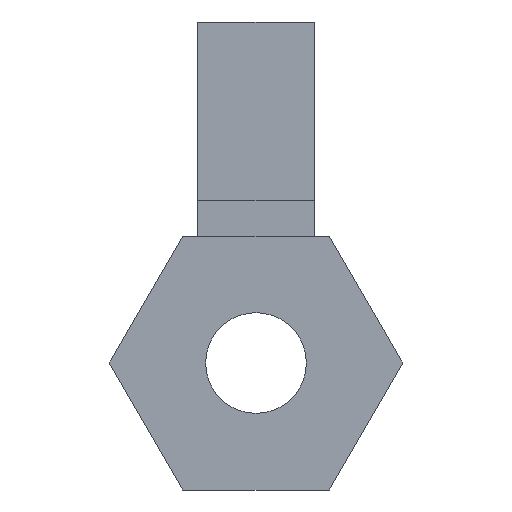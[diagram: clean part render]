
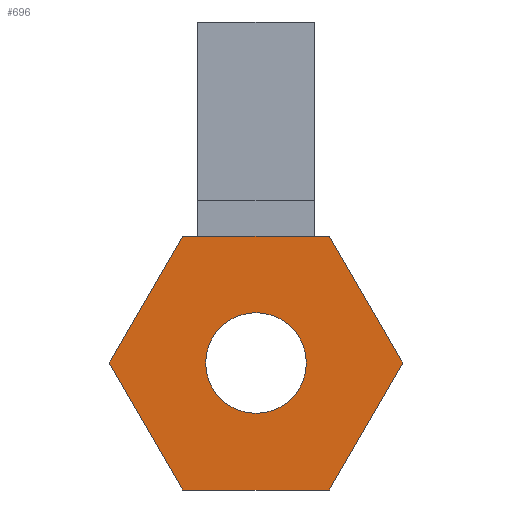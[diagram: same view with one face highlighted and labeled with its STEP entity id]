
A CAD part, left-side view. The second image highlights one B-rep face of the part: STEP entity #696.
In plain terms, the highlighted planar face has unit normal (-1, 0, 0).
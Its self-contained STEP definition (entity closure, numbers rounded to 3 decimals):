
#32 = PLANE('',#33);
#33 = AXIS2_PLACEMENT_3D('',#34,#35,#36);
#34 = CARTESIAN_POINT('',(0.,0.,0.391));
#35 = DIRECTION('',(0.,0.,1.));
#36 = DIRECTION('',(0.,-1.,0.));
#141 = VERTEX_POINT('',#142);
#142 = CARTESIAN_POINT('',(0.,0.226,0.391));
#156 = PLANE('',#157);
#157 = AXIS2_PLACEMENT_3D('',#158,#159,#160);
#158 = CARTESIAN_POINT('',(0.,0.339,0.196));
#159 = DIRECTION('',(0.,0.866,0.5));
#160 = DIRECTION('',(0.,-0.5,0.866));
#168 = EDGE_CURVE('',#169,#141,#171,.T.);
#169 = VERTEX_POINT('',#170);
#170 = CARTESIAN_POINT('',(0.,-0.226,0.391));
#171 = SURFACE_CURVE('',#172,(#176,#183),.PCURVE_S1.);
#172 = LINE('',#173,#174);
#173 = CARTESIAN_POINT('',(0.,-0.226,0.391));
#174 = VECTOR('',#175,1.);
#175 = DIRECTION('',(0.,1.,0.));
#176 = PCURVE('',#32,#177);
#177 = DEFINITIONAL_REPRESENTATION('',(#178),#182);
#178 = LINE('',#179,#180);
#179 = CARTESIAN_POINT('',(0.226,0.));
#180 = VECTOR('',#181,1.);
#181 = DIRECTION('',(-1.,0.));
#182 = ( GEOMETRIC_REPRESENTATION_CONTEXT(2) 
PARAMETRIC_REPRESENTATION_CONTEXT() REPRESENTATION_CONTEXT('2D SPACE',''
  ) );
#183 = PCURVE('',#184,#189);
#184 = PLANE('',#185);
#185 = AXIS2_PLACEMENT_3D('',#186,#187,#188);
#186 = CARTESIAN_POINT('',(0.,0.,0.));
#187 = DIRECTION('',(1.,0.,0.));
#188 = DIRECTION('',(0.,0.,-1.));
#189 = DEFINITIONAL_REPRESENTATION('',(#190),#194);
#190 = LINE('',#191,#192);
#191 = CARTESIAN_POINT('',(-0.391,-0.226));
#192 = VECTOR('',#193,1.);
#193 = DIRECTION('',(0.,1.));
#194 = ( GEOMETRIC_REPRESENTATION_CONTEXT(2) 
PARAMETRIC_REPRESENTATION_CONTEXT() REPRESENTATION_CONTEXT('2D SPACE',''
  ) );
#212 = PLANE('',#213);
#213 = AXIS2_PLACEMENT_3D('',#214,#215,#216);
#214 = CARTESIAN_POINT('',(0.,-0.339,0.196));
#215 = DIRECTION('',(0.,-0.866,0.5));
#216 = DIRECTION('',(0.,-0.5,-0.866));
#248 = EDGE_CURVE('',#249,#251,#253,.T.);
#249 = VERTEX_POINT('',#250);
#250 = CARTESIAN_POINT('',(0.,0.155,0.));
#251 = VERTEX_POINT('',#252);
#252 = CARTESIAN_POINT('',(0.,-0.155,0.));
#253 = SURFACE_CURVE('',#254,(#259,#271),.PCURVE_S1.);
#254 = CIRCLE('',#255,0.155);
#255 = AXIS2_PLACEMENT_3D('',#256,#257,#258);
#256 = CARTESIAN_POINT('',(0.,0.,0.));
#257 = DIRECTION('',(1.,0.,0.));
#258 = DIRECTION('',(0.,-1.,0.));
#259 = PCURVE('',#260,#265);
#260 = CYLINDRICAL_SURFACE('',#261,0.155);
#261 = AXIS2_PLACEMENT_3D('',#262,#263,#264);
#262 = CARTESIAN_POINT('',(1.7,0.,0.));
#263 = DIRECTION('',(-1.,0.,0.));
#264 = DIRECTION('',(0.,-1.,0.));
#265 = DEFINITIONAL_REPRESENTATION('',(#266),#270);
#266 = LINE('',#267,#268);
#267 = CARTESIAN_POINT('',(6.283,1.7));
#268 = VECTOR('',#269,1.);
#269 = DIRECTION('',(-1.,0.));
#270 = ( GEOMETRIC_REPRESENTATION_CONTEXT(2) 
PARAMETRIC_REPRESENTATION_CONTEXT() REPRESENTATION_CONTEXT('2D SPACE',''
  ) );
#271 = PCURVE('',#184,#272);
#272 = DEFINITIONAL_REPRESENTATION('',(#273),#277);
#273 = CIRCLE('',#274,0.155);
#274 = AXIS2_PLACEMENT_2D('',#275,#276);
#275 = CARTESIAN_POINT('',(0.,0.));
#276 = DIRECTION('',(0.,-1.));
#277 = ( GEOMETRIC_REPRESENTATION_CONTEXT(2) 
PARAMETRIC_REPRESENTATION_CONTEXT() REPRESENTATION_CONTEXT('2D SPACE',''
  ) );
#329 = EDGE_CURVE('',#251,#249,#330,.T.);
#330 = SURFACE_CURVE('',#331,(#336,#343),.PCURVE_S1.);
#331 = CIRCLE('',#332,0.155);
#332 = AXIS2_PLACEMENT_3D('',#333,#334,#335);
#333 = CARTESIAN_POINT('',(0.,0.,0.));
#334 = DIRECTION('',(1.,0.,0.));
#335 = DIRECTION('',(0.,-1.,0.));
#336 = PCURVE('',#260,#337);
#337 = DEFINITIONAL_REPRESENTATION('',(#338),#342);
#338 = LINE('',#339,#340);
#339 = CARTESIAN_POINT('',(12.566,1.7));
#340 = VECTOR('',#341,1.);
#341 = DIRECTION('',(-1.,0.));
#342 = ( GEOMETRIC_REPRESENTATION_CONTEXT(2) 
PARAMETRIC_REPRESENTATION_CONTEXT() REPRESENTATION_CONTEXT('2D SPACE',''
  ) );
#343 = PCURVE('',#184,#344);
#344 = DEFINITIONAL_REPRESENTATION('',(#345),#349);
#345 = CIRCLE('',#346,0.155);
#346 = AXIS2_PLACEMENT_2D('',#347,#348);
#347 = CARTESIAN_POINT('',(0.,0.));
#348 = DIRECTION('',(0.,-1.));
#349 = ( GEOMETRIC_REPRESENTATION_CONTEXT(2) 
PARAMETRIC_REPRESENTATION_CONTEXT() REPRESENTATION_CONTEXT('2D SPACE',''
  ) );
#378 = EDGE_CURVE('',#379,#169,#381,.T.);
#379 = VERTEX_POINT('',#380);
#380 = CARTESIAN_POINT('',(0.,-0.451,0.));
#381 = SURFACE_CURVE('',#382,(#386,#393),.PCURVE_S1.);
#382 = LINE('',#383,#384);
#383 = CARTESIAN_POINT('',(0.,-0.451,0.));
#384 = VECTOR('',#385,1.);
#385 = DIRECTION('',(0.,0.5,0.866));
#386 = PCURVE('',#212,#387);
#387 = DEFINITIONAL_REPRESENTATION('',(#388),#392);
#388 = LINE('',#389,#390);
#389 = CARTESIAN_POINT('',(0.226,0.));
#390 = VECTOR('',#391,1.);
#391 = DIRECTION('',(-1.,0.));
#392 = ( GEOMETRIC_REPRESENTATION_CONTEXT(2) 
PARAMETRIC_REPRESENTATION_CONTEXT() REPRESENTATION_CONTEXT('2D SPACE',''
  ) );
#393 = PCURVE('',#184,#394);
#394 = DEFINITIONAL_REPRESENTATION('',(#395),#399);
#395 = LINE('',#396,#397);
#396 = CARTESIAN_POINT('',(0.,-0.451));
#397 = VECTOR('',#398,1.);
#398 = DIRECTION('',(-0.866,0.5));
#399 = ( GEOMETRIC_REPRESENTATION_CONTEXT(2) 
PARAMETRIC_REPRESENTATION_CONTEXT() REPRESENTATION_CONTEXT('2D SPACE',''
  ) );
#415 = PLANE('',#416);
#416 = AXIS2_PLACEMENT_3D('',#417,#418,#419);
#417 = CARTESIAN_POINT('',(0.,-0.339,-0.196));
#418 = DIRECTION('',(0.,-0.866,-0.5));
#419 = DIRECTION('',(0.,0.5,-0.866));
#454 = VERTEX_POINT('',#455);
#455 = CARTESIAN_POINT('',(0.,0.451,0.));
#469 = PLANE('',#470);
#470 = AXIS2_PLACEMENT_3D('',#471,#472,#473);
#471 = CARTESIAN_POINT('',(0.,0.339,-0.196));
#472 = DIRECTION('',(0.,0.866,-0.5));
#473 = DIRECTION('',(0.,0.5,0.866));
#481 = EDGE_CURVE('',#141,#454,#482,.T.);
#482 = SURFACE_CURVE('',#483,(#487,#494),.PCURVE_S1.);
#483 = LINE('',#484,#485);
#484 = CARTESIAN_POINT('',(0.,0.226,0.391));
#485 = VECTOR('',#486,1.);
#486 = DIRECTION('',(0.,0.5,-0.866));
#487 = PCURVE('',#156,#488);
#488 = DEFINITIONAL_REPRESENTATION('',(#489),#493);
#489 = LINE('',#490,#491);
#490 = CARTESIAN_POINT('',(0.226,0.));
#491 = VECTOR('',#492,1.);
#492 = DIRECTION('',(-1.,0.));
#493 = ( GEOMETRIC_REPRESENTATION_CONTEXT(2) 
PARAMETRIC_REPRESENTATION_CONTEXT() REPRESENTATION_CONTEXT('2D SPACE',''
  ) );
#494 = PCURVE('',#184,#495);
#495 = DEFINITIONAL_REPRESENTATION('',(#496),#500);
#496 = LINE('',#497,#498);
#497 = CARTESIAN_POINT('',(-0.391,0.226));
#498 = VECTOR('',#499,1.);
#499 = DIRECTION('',(0.866,0.5));
#500 = ( GEOMETRIC_REPRESENTATION_CONTEXT(2) 
PARAMETRIC_REPRESENTATION_CONTEXT() REPRESENTATION_CONTEXT('2D SPACE',''
  ) );
#530 = VERTEX_POINT('',#531);
#531 = CARTESIAN_POINT('',(0.,0.226,-0.391));
#545 = PLANE('',#546);
#546 = AXIS2_PLACEMENT_3D('',#547,#548,#549);
#547 = CARTESIAN_POINT('',(0.,0.,-0.391));
#548 = DIRECTION('',(0.,0.,-1.));
#549 = DIRECTION('',(0.,1.,0.));
#557 = EDGE_CURVE('',#454,#530,#558,.T.);
#558 = SURFACE_CURVE('',#559,(#563,#570),.PCURVE_S1.);
#559 = LINE('',#560,#561);
#560 = CARTESIAN_POINT('',(0.,0.451,0.));
#561 = VECTOR('',#562,1.);
#562 = DIRECTION('',(0.,-0.5,-0.866));
#563 = PCURVE('',#469,#564);
#564 = DEFINITIONAL_REPRESENTATION('',(#565),#569);
#565 = LINE('',#566,#567);
#566 = CARTESIAN_POINT('',(0.226,0.));
#567 = VECTOR('',#568,1.);
#568 = DIRECTION('',(-1.,0.));
#569 = ( GEOMETRIC_REPRESENTATION_CONTEXT(2) 
PARAMETRIC_REPRESENTATION_CONTEXT() REPRESENTATION_CONTEXT('2D SPACE',''
  ) );
#570 = PCURVE('',#184,#571);
#571 = DEFINITIONAL_REPRESENTATION('',(#572),#576);
#572 = LINE('',#573,#574);
#573 = CARTESIAN_POINT('',(0.,0.451));
#574 = VECTOR('',#575,1.);
#575 = DIRECTION('',(0.866,-0.5));
#576 = ( GEOMETRIC_REPRESENTATION_CONTEXT(2) 
PARAMETRIC_REPRESENTATION_CONTEXT() REPRESENTATION_CONTEXT('2D SPACE',''
  ) );
#606 = VERTEX_POINT('',#607);
#607 = CARTESIAN_POINT('',(0.,-0.226,-0.391));
#628 = EDGE_CURVE('',#530,#606,#629,.T.);
#629 = SURFACE_CURVE('',#630,(#634,#641),.PCURVE_S1.);
#630 = LINE('',#631,#632);
#631 = CARTESIAN_POINT('',(0.,0.226,-0.391));
#632 = VECTOR('',#633,1.);
#633 = DIRECTION('',(0.,-1.,0.));
#634 = PCURVE('',#545,#635);
#635 = DEFINITIONAL_REPRESENTATION('',(#636),#640);
#636 = LINE('',#637,#638);
#637 = CARTESIAN_POINT('',(0.226,0.));
#638 = VECTOR('',#639,1.);
#639 = DIRECTION('',(-1.,0.));
#640 = ( GEOMETRIC_REPRESENTATION_CONTEXT(2) 
PARAMETRIC_REPRESENTATION_CONTEXT() REPRESENTATION_CONTEXT('2D SPACE',''
  ) );
#641 = PCURVE('',#184,#642);
#642 = DEFINITIONAL_REPRESENTATION('',(#643),#647);
#643 = LINE('',#644,#645);
#644 = CARTESIAN_POINT('',(0.391,0.226));
#645 = VECTOR('',#646,1.);
#646 = DIRECTION('',(0.,-1.));
#647 = ( GEOMETRIC_REPRESENTATION_CONTEXT(2) 
PARAMETRIC_REPRESENTATION_CONTEXT() REPRESENTATION_CONTEXT('2D SPACE',''
  ) );
#675 = EDGE_CURVE('',#606,#379,#676,.T.);
#676 = SURFACE_CURVE('',#677,(#681,#688),.PCURVE_S1.);
#677 = LINE('',#678,#679);
#678 = CARTESIAN_POINT('',(0.,-0.226,-0.391));
#679 = VECTOR('',#680,1.);
#680 = DIRECTION('',(0.,-0.5,0.866));
#681 = PCURVE('',#415,#682);
#682 = DEFINITIONAL_REPRESENTATION('',(#683),#687);
#683 = LINE('',#684,#685);
#684 = CARTESIAN_POINT('',(0.226,0.));
#685 = VECTOR('',#686,1.);
#686 = DIRECTION('',(-1.,0.));
#687 = ( GEOMETRIC_REPRESENTATION_CONTEXT(2) 
PARAMETRIC_REPRESENTATION_CONTEXT() REPRESENTATION_CONTEXT('2D SPACE',''
  ) );
#688 = PCURVE('',#184,#689);
#689 = DEFINITIONAL_REPRESENTATION('',(#690),#694);
#690 = LINE('',#691,#692);
#691 = CARTESIAN_POINT('',(0.391,-0.226));
#692 = VECTOR('',#693,1.);
#693 = DIRECTION('',(-0.866,-0.5));
#694 = ( GEOMETRIC_REPRESENTATION_CONTEXT(2) 
PARAMETRIC_REPRESENTATION_CONTEXT() REPRESENTATION_CONTEXT('2D SPACE',''
  ) );
#696 = ADVANCED_FACE('',(#697,#701),#184,.F.);
#697 = FACE_BOUND('',#698,.T.);
#698 = EDGE_LOOP('',(#699,#700));
#699 = ORIENTED_EDGE('',*,*,#248,.T.);
#700 = ORIENTED_EDGE('',*,*,#329,.T.);
#701 = FACE_BOUND('',#702,.T.);
#702 = EDGE_LOOP('',(#703,#704,#705,#706,#707,#708));
#703 = ORIENTED_EDGE('',*,*,#675,.T.);
#704 = ORIENTED_EDGE('',*,*,#378,.T.);
#705 = ORIENTED_EDGE('',*,*,#168,.T.);
#706 = ORIENTED_EDGE('',*,*,#481,.T.);
#707 = ORIENTED_EDGE('',*,*,#557,.T.);
#708 = ORIENTED_EDGE('',*,*,#628,.T.);
